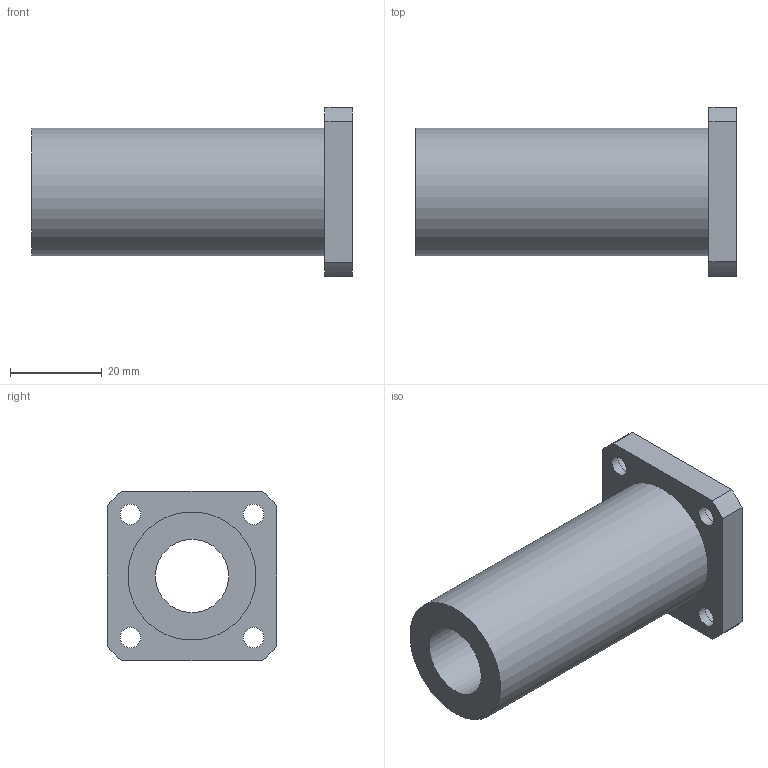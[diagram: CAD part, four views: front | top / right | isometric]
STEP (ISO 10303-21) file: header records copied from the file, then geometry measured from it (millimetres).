
FILE_DESCRIPTION(/* description */ (''),/* implementation_level */ '2;1');
FILE_NAME(/* name */ 'LMK16LUU',/* time_stamp */ '2019-07-09T15:48:30+02:00',/* author */ ('VĂ©gh MĂˇtĂ©'),/* organization */ ('Bearing Kft'),/* preprocessor_version */ 'ST-DEVELOPER v16.7',/* originating_system */ 'DEX',/* authorisation */ $);
FILE_SCHEMA (('AUTOMOTIVE_DESIGN {1 0 10303 214 3 1 1}'));
Length unit declared in the file: millimetre
Products named in the file (1): LMK16LUU
Bounding box: 70 x 37 x 37 mm (x, y, z)
Volume: 32583.7 mm3; surface area: 12675.5 mm2
Topology: 1 solids, 1 shells, 334 faces, 840 edges, 560 vertices
Faces by surface type: plane 258, bspline 59, cylinder 17
Full cylindrical faces by diameter (mm): 4.5 x4, 7.5 x4, 16 x1, 28 x1
Entity records: 12676 total; most frequent: CARTESIAN_POINT 5004, ORIENTED_EDGE 1656, DIRECTION 1296, EDGE_CURVE 828, LINE 676, VECTOR 676, VERTEX_POINT 560, EDGE_LOOP 408
